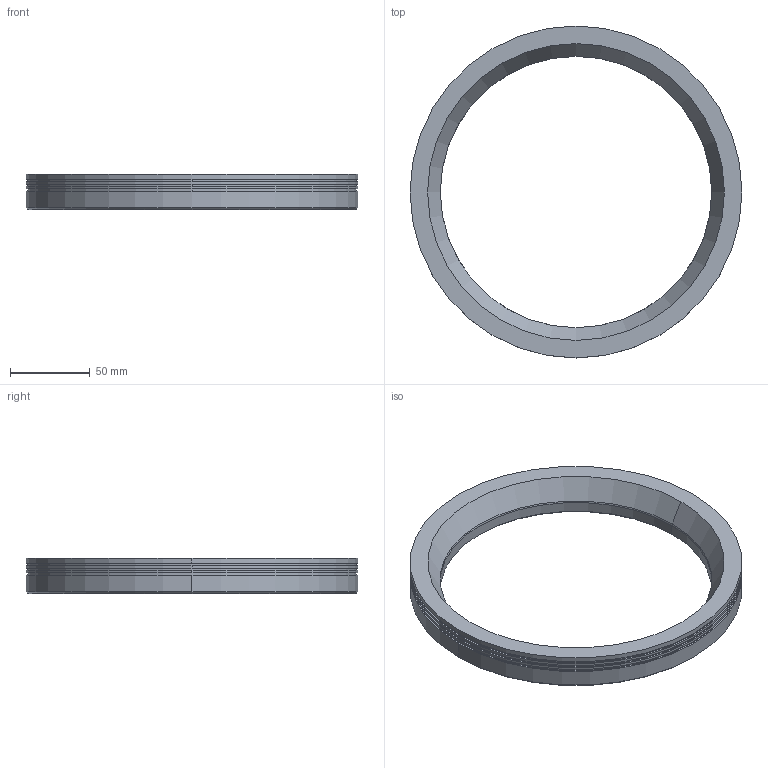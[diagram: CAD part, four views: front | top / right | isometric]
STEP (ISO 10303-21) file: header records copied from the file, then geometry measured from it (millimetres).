
FILE_DESCRIPTION((''),'2;1');
FILE_NAME('DRL7030','2020-03-28T',('ASUS'),(''),'PRO/ENGINEER BY PARAMETRIC TECHNOLOGY CORPORATION, 2008380','PRO/ENGINEER BY PARAMETRIC TECHNOLOGY CORPORATION, 2008380','');
FILE_SCHEMA(('CONFIG_CONTROL_DESIGN'));
Length unit declared in the file: millimetre
Products named in the file (1): DRL7030
Bounding box: 208 x 208 x 22 mm (x, y, z)
Volume: 213966.2 mm3; surface area: 49370.7 mm2
Topology: 1 solids, 5 shells, 68 faces, 152 edges, 92 vertices
Faces by surface type: cylinder 32, cone 22, plane 12, torus 2
Entity records: 1901 total; most frequent: DIRECTION 372, CARTESIAN_POINT 305, ORIENTED_EDGE 272, AXIS2_PLACEMENT_3D 159, EDGE_CURVE 144, VERTEX_POINT 92, CIRCLE 90, EDGE_LOOP 84
